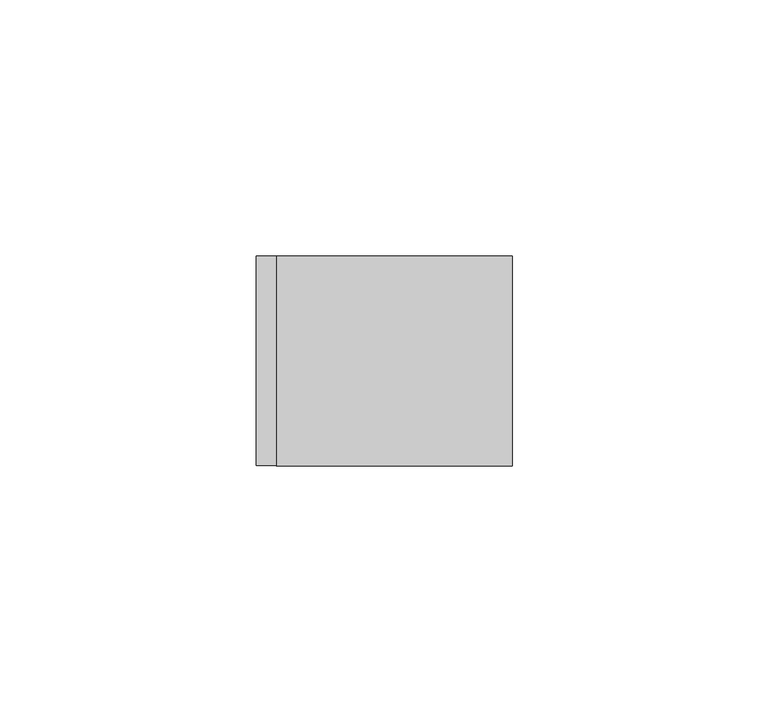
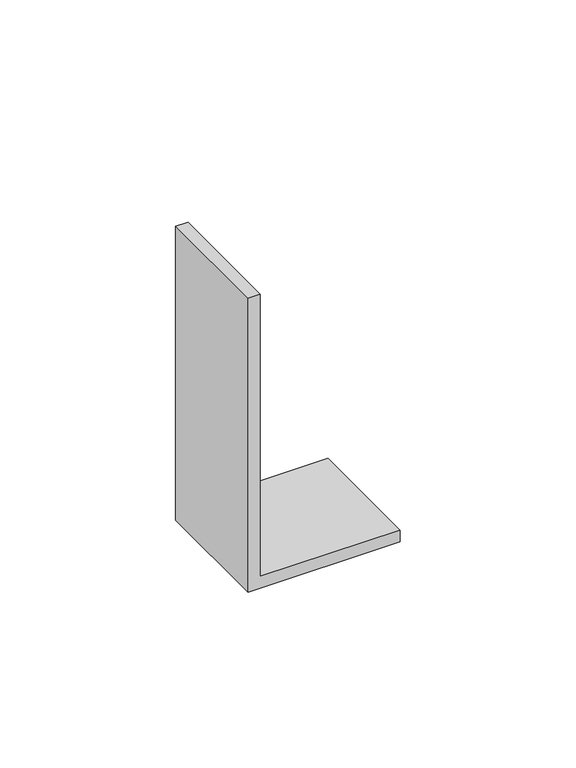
"""IFC4 building model written with IfcOpenShell, lengths in millimetres: proxy geometry, 4182CD_Accessory-Basorfix : Basorfix 4182CD GC70."""

import ifcopenshell
import ifcopenshell.guid

model = None  # the IFC model being written
_history = None  # IfcOwnerHistory: only IFC2X3 demands one
_inside = {}  # id of a spatial element -> (the spatial element, [elements in it])
_under = {}  # id of a project, library or spatial element -> (it, [spatial elements below it])
_declared = {}  # id of a project -> (the project, [libraries it declares])
_typed = {}  # id of a type object -> (the type object, [elements of that type])
_made_of = {}  # id of a material, layer set ... -> (it, [elements and type objects made of it])


def new_model(schema):
    """Start an empty IFC model of exactly this schema.

    Asked for "IFC4X3", IfcOpenShell would pick the latest addendum, in which some entities
    have other attributes; the version numbers below select the first issue.
    IFC2X3 requires an IfcOwnerHistory on every rooted entity: one is made here for all.
    """
    global model, _history
    if schema == "IFC4X3":
        model = ifcopenshell.file(schema_version=(4, 3, 0, 0))
    else:
        model = ifcopenshell.file(schema=schema)
    _inside.clear()
    _under.clear()
    _declared.clear()
    _typed.clear()
    _made_of.clear()
    _history = None
    if model.schema == "IFC2X3":
        org = make("IfcOrganization", Name="unknown")
        user = make(
            "IfcPersonAndOrganization",
            ThePerson=make("IfcPerson", FamilyName="unknown"),
            TheOrganization=org,
        )
        app = make(
            "IfcApplication",
            ApplicationDeveloper=org,
            Version="unknown",
            ApplicationFullName="unknown",
            ApplicationIdentifier="unknown",
        )
        _history = make(
            "IfcOwnerHistory",
            OwningUser=user,
            OwningApplication=app,
            ChangeAction="ADDED",
            CreationDate=0,
        )
    return model


def make(cls, **values):
    """One entity of the class cls with the attributes given. An attribute that is None is left unset."""
    return model.create_entity(
        cls, **{name: value for name, value in values.items() if value is not None}
    )


def rooted(cls, **values):
    """An entity with a GlobalId (a new one), such as an element, a storey or a relation."""
    return make(cls, GlobalId=ifcopenshell.guid.new(), OwnerHistory=_history, **values)


def si_unit(unit_type, name, prefix=None):
    """IfcSIUnit, for example si_unit("LENGTHUNIT", "METRE", prefix="MILLI")."""
    return make("IfcSIUnit", UnitType=unit_type, Prefix=prefix, Name=name)


def assignment(units):
    """IfcUnitAssignment: the units of a project."""
    return None if units is None else make("IfcUnitAssignment", Units=units)


def point(xyz):
    """IfcCartesianPoint."""
    return None if xyz is None else make("IfcCartesianPoint", Coordinates=xyz)


def direction(xyz):
    """IfcDirection."""
    return None if xyz is None else make("IfcDirection", DirectionRatios=xyz)


def frame(location, z_axis=None, x_axis=None):
    """IfcAxis2Placement3D, a coordinate frame: its origin and axes. An axis left out is left unset."""
    return make(
        "IfcAxis2Placement3D",
        Location=point(location),
        Axis=direction(z_axis),
        RefDirection=direction(x_axis),
    )


def origin():
    """The frame at (0, 0, 0) with its axes left unset."""
    return frame((0.0, 0.0, 0.0))


def place(relative_to, where):
    """IfcLocalPlacement: puts the frame where relative to a parent placement (None: the world)."""
    return make(
        "IfcLocalPlacement", PlacementRelTo=relative_to, RelativePlacement=where
    )


def context(
    kind, dimensions, precision=None, world=None, true_north=None, identifier=None
):
    """IfcGeometricRepresentationContext, for example the 3D "Model" context."""
    return make(
        "IfcGeometricRepresentationContext",
        ContextIdentifier=identifier,
        ContextType=kind,
        CoordinateSpaceDimension=dimensions,
        Precision=precision,
        WorldCoordinateSystem=world,
        TrueNorth=true_north,
    )


def project(units=None, contexts=None):
    """IfcProject with its units and contexts."""
    return rooted(
        "IfcProject",
        Name="project",
        RepresentationContexts=contexts,
        UnitsInContext=assignment(units),
    )


def spatial(cls, under=None, at=None, **own):
    """A site, building, storey or space (cls), placed at a placement, below another one or the project."""
    s = rooted(cls, ObjectPlacement=at, **own)
    if under is not None:
        _under.setdefault(under.id(), (under, []))[1].append(s)
    return s


def polyline(points):
    """IfcPolyline through the points."""
    return make("IfcPolyline", Points=[point(p) for p in points])


def outline(outer, holes=None, kind="AREA"):
    """IfcArbitraryClosedProfileDef: a profile drawn as a closed curve; with holes, ...WithVoids."""
    if holes is None:
        return make("IfcArbitraryClosedProfileDef", ProfileType=kind, OuterCurve=outer)
    return make(
        "IfcArbitraryProfileDefWithVoids",
        ProfileType=kind,
        OuterCurve=outer,
        InnerCurves=holes,
    )


def extrude(swept, where, along, depth):
    """IfcExtrudedAreaSolid: the profile swept, set in the frame where, extruded along a direction by depth."""
    return make(
        "IfcExtrudedAreaSolid",
        SweptArea=swept,
        Position=where,
        ExtrudedDirection=direction(along),
        Depth=depth,
    )


def shape(context_of_items, identifier, shape_type, items):
    """IfcShapeRepresentation: the items that make up one representation, for example the "Body"."""
    return make(
        "IfcShapeRepresentation",
        ContextOfItems=context_of_items,
        RepresentationIdentifier=identifier,
        RepresentationType=shape_type,
        Items=items,
    )


def source(mapping_origin, context_of_items, identifier, shape_type, items):
    """IfcRepresentationMap: a shape defined once, which mapped items show again and again."""
    return make(
        "IfcRepresentationMap",
        MappingOrigin=mapping_origin,
        MappedRepresentation=shape(context_of_items, identifier, shape_type, items),
    )


def transform(
    local_origin,
    x_axis=None,
    y_axis=None,
    z_axis=None,
    scale=None,
    scale2=None,
    scale3=None,
    uniform=True,
):
    """IfcCartesianTransformationOperator3D, or its non-uniform kind. x_axis, y_axis, z_axis: its Axis1, 2, 3."""
    if uniform:
        return make(
            "IfcCartesianTransformationOperator3D",
            Axis1=direction(x_axis),
            Axis2=direction(y_axis),
            LocalOrigin=point(local_origin),
            Scale=scale,
            Axis3=direction(z_axis),
        )
    return make(
        "IfcCartesianTransformationOperator3DnonUniform",
        Axis1=direction(x_axis),
        Axis2=direction(y_axis),
        LocalOrigin=point(local_origin),
        Scale=scale,
        Axis3=direction(z_axis),
        Scale2=scale2,
        Scale3=scale3,
    )


def mapped(mapping_source, mapping_target):
    """IfcMappedItem: shows the shape of a source again, moved by a transform."""
    return make(
        "IfcMappedItem", MappingSource=mapping_source, MappingTarget=mapping_target
    )


def made_of(thing, what):
    """Note that an element or type object is made of a material, layer set ...; save() writes the relation."""
    if what is not None:
        _made_of.setdefault(what.id(), (what, []))[1].append(thing)
    return thing


def element(
    cls,
    number,
    at=None,
    inside=None,
    cuts=None,
    type_object=None,
    material=None,
    context=None,
    identifier="Body",
    shape_type=None,
    held_by="IfcProductDefinitionShape",
    body=None,
    shapes=None,
    **own,
):
    """One element of the class cls, such as IfcWall. Its Tag is "e" and its number.

    at: its placement. inside: the storey or other place that contains it. cuts: it is an
    opening in that element (IfcRelVoidsElement). A single representation is given by context,
    identifier, shape_type and body (its items); several are given by shapes. held_by: the class
    of the entity that holds the representations. save() writes the other relations.
    """
    e = rooted(cls, Tag="e%d" % number, ObjectPlacement=at, **own)
    if body is not None:
        shapes = [shape(context, identifier, shape_type, body)]
    if shapes is not None:
        e.Representation = make(held_by, Representations=shapes)
    if inside is not None:
        _inside.setdefault(inside.id(), (inside, []))[1].append(e)
    if cuts is not None:
        rooted(
            "IfcRelVoidsElement", RelatingBuildingElement=cuts, RelatedOpeningElement=e
        )
    if type_object is not None:
        _typed.setdefault(type_object.id(), (type_object, []))[1].append(e)
    return made_of(e, material)


def aggregate(whole, parts):
    """IfcRelAggregates: a whole, such as a stair, and the parts it consists of."""
    return rooted("IfcRelAggregates", RelatingObject=whole, RelatedObjects=parts)


def save(model, path):
    """Write the relations noted so far, then the file.

    IfcRelAggregates (storeys below a building ...), IfcRelContainedInSpatialStructure (elements
    in a storey), IfcRelDefinesByType, IfcRelAssociatesMaterial and IfcRelDeclares: one each for
    every whole, place, type object, material and project.
    """
    for whole, parts in _under.values():
        aggregate(whole, parts)
    for where, things in _inside.values():
        rooted(
            "IfcRelContainedInSpatialStructure",
            RelatedElements=things,
            RelatingStructure=where,
        )
    for kind, things in _typed.values():
        rooted("IfcRelDefinesByType", RelatedObjects=things, RelatingType=kind)
    for what, things in _made_of.values():
        rooted("IfcRelAssociatesMaterial", RelatedObjects=things, RelatingMaterial=what)
    for by, libraries in _declared.values():
        rooted("IfcRelDeclares", RelatingContext=by, RelatedDefinitions=libraries)
    model.write(path)


def generic_models_3abf0fa4(model_context):
    return source(origin(), model_context, "Body", "SweptSolid", [
        extrude(outline(polyline([(0.0, 0.0), (0.0, 50.0), (4.0, 50.0), (4.0, 4.0), (102.0, 4.0), (102.0, 0.0), (0.0, 0.0)])), frame((0.0, -20.5, 0.0), z_axis=(0.0, 1.0, 0.0), x_axis=(0.0, 0.0, 1.0)), (0.0, 0.0, 1.0), 41.0),
    ])


if __name__ == "__main__":
    model = new_model("IFC4")
    model_context = context("Model", 3, world=origin())
    ifc_project = project(units=[si_unit("LENGTHUNIT", "METRE", prefix="MILLI")], contexts=[model_context])
    site = spatial("IfcSite", under=ifc_project)
    building = spatial("IfcBuilding", under=site)
    placement = place(None, origin())
    generic_models_shape = generic_models_3abf0fa4(model_context)
    element("IfcBuildingElementProxy", 1, Name="4182CD_Accessory-Basorfix : Basorfix 4182CD GC70", ObjectType="4182CD_Accessory-Basorfix : Basorfix 4182CD GC70", at=placement, inside=building, context=model_context, shape_type="MappedRepresentation", body=[
        mapped(generic_models_shape, transform((0.0, 0.0, 0.0), x_axis=(1.0, 0.0, 0.0), y_axis=(0.0, 1.0, 0.0), z_axis=(0.0, 0.0, 1.0))),
    ])
    save(model, "model.ifc")
